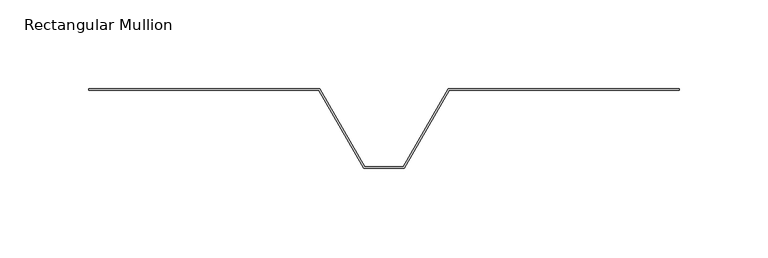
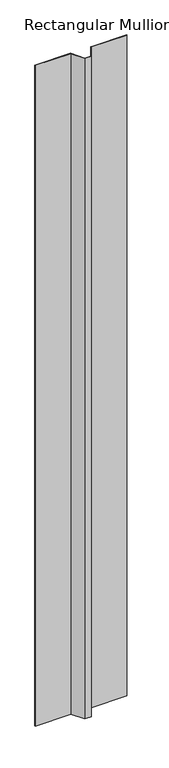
"""IFC4 building model written with IfcOpenShell, lengths in millimetres: member geometry, Rectangular Mullion : Parisienne 1000 - Metal - AZURO 0102."""

from ifc_helpers import new_model, si_unit, frame, origin, place, context, project, spatial, polyline, outline, extrude, source, transform, mapped, element, save


def rectangular_mullion_6e78ad83(model_context):
    return source(origin(), model_context, "Body", "SweptSolid", [
        extrude(outline(polyline([(11.5, -45.0), (-11.5, -45.0), (-36.9222222, -1.0), (-166.5, -1.0), (-166.5, 0.0), (-37.5, 0.0), (-36.3450856, 0.0), (-10.9228634, -44.0), (10.9228634, -44.0), (36.3450856, 0.0), (37.5, 0.0), (166.5, 0.0), (166.5, -1.0), (36.9222222, -1.0), (11.5, -45.0)])), frame((0.0, 0.0, -2538.5665297), z_axis=(0.0, 0.0, 1.0), x_axis=(1.0, 0.0, 0.0)), (0.0, 0.0, 1.0), 2538.5665297),
    ])


if __name__ == "__main__":
    model = new_model("IFC4")
    model_context = context("Model", 3, world=origin())
    ifc_project = project(units=[si_unit("LENGTHUNIT", "METRE", prefix="MILLI")], contexts=[model_context])
    site = spatial("IfcSite", under=ifc_project)
    building = spatial("IfcBuilding", under=site)
    placement = place(None, origin())
    rectangular_mullion_shape = rectangular_mullion_6e78ad83(model_context)
    element("IfcMember", 1, ObjectType="Rectangular Mullion : Parisienne 1000 - Metal - AZURO 0102", at=placement, inside=building, context=model_context, shape_type="MappedRepresentation", body=[
        mapped(rectangular_mullion_shape, transform((0.0, 0.0, 0.0), x_axis=(1.0, 0.0, 0.0), y_axis=(0.0, 1.0, 0.0), z_axis=(0.0, 0.0, 1.0))),
    ])
    save(model, "model.ifc")
